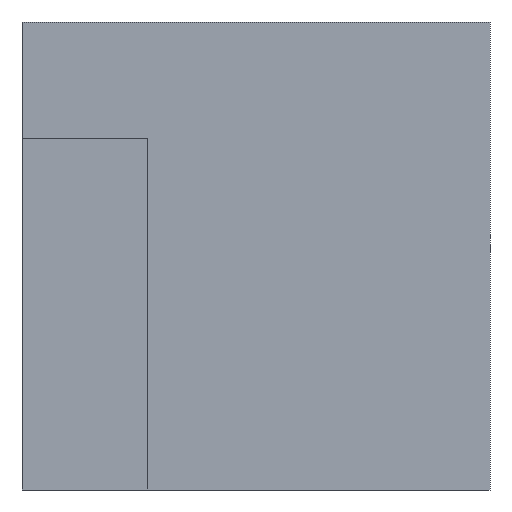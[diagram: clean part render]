
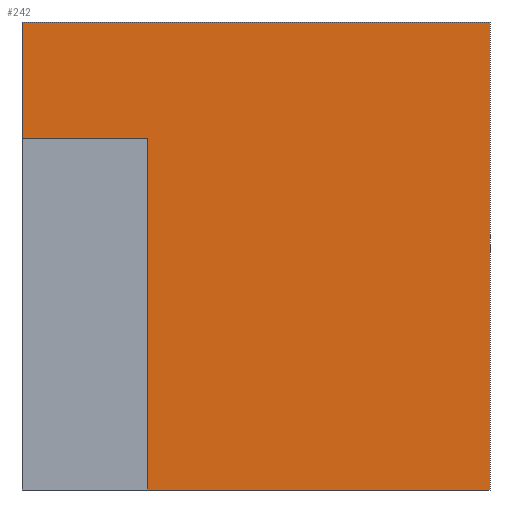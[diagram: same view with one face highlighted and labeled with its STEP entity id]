
A CAD part, front view. The second image highlights one B-rep face of the part: STEP entity #242.
In plain terms, the highlighted planar face has unit normal (0, -1, 0).
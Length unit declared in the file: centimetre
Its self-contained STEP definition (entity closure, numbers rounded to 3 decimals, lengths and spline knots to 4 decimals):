
#5 = CARTESIAN_POINT ( 'NONE',  ( 0., 0., 0. ) ) ;
#14 = CARTESIAN_POINT ( 'NONE',  ( 0., 0., 1000. ) ) ;
#21 = ORIENTED_EDGE ( 'NONE', *, *, #427, .F. ) ;
#36 = LINE ( 'NONE', #254, #127 ) ;
#67 = LINE ( 'NONE', #189, #208 ) ;
#69 = DIRECTION ( 'NONE',  ( 0., 0., 1. ) ) ;
#71 = DIRECTION ( 'NONE',  ( 1., 0., 0. ) ) ;
#78 = LINE ( 'NONE', #332, #326 ) ;
#104 = PLANE ( 'NONE',  #426 ) ;
#108 = FACE_OUTER_BOUND ( 'NONE', #241, .T. ) ;
#127 = VECTOR ( 'NONE', #371, 100. ) ;
#143 = VERTEX_POINT ( 'NONE', #455 ) ;
#144 = CARTESIAN_POINT ( 'NONE',  ( 0., 0., 1000. ) ) ;
#151 = DIRECTION ( 'NONE',  ( 0., 0., -1. ) ) ;
#155 = ORIENTED_EDGE ( 'NONE', *, *, #379, .F. ) ;
#158 = ORIENTED_EDGE ( 'NONE', *, *, #315, .F. ) ;
#172 = ORIENTED_EDGE ( 'NONE', *, *, #446, .T. ) ;
#189 = CARTESIAN_POINT ( 'NONE',  ( 1000., 0., 1000. ) ) ;
#198 = VERTEX_POINT ( 'NONE', #361 ) ;
#199 = CARTESIAN_POINT ( 'NONE',  ( 1000., 0., 0. ) ) ;
#207 = VERTEX_POINT ( 'NONE', #144 ) ;
#208 = VECTOR ( 'NONE', #151, 100. ) ;
#227 = CARTESIAN_POINT ( 'NONE',  ( 268.6001, 0., 0. ) ) ;
#233 = ORIENTED_EDGE ( 'NONE', *, *, #435, .T. ) ;
#234 = DIRECTION ( 'NONE',  ( -1., 0., 0. ) ) ;
#241 = EDGE_LOOP ( 'NONE', ( #233, #158, #450, #172, #21, #155 ) ) ;
#242 = ADVANCED_FACE ( 'NONE', ( #108 ), #104, .F. ) ;
#244 = VECTOR ( 'NONE', #71, 100. ) ;
#254 = CARTESIAN_POINT ( 'NONE',  ( 0., 0., 1000. ) ) ;
#262 = LINE ( 'NONE', #303, #391 ) ;
#299 = CARTESIAN_POINT ( 'NONE',  ( 1000., 0., 1000. ) ) ;
#303 = CARTESIAN_POINT ( 'NONE',  ( 268.6001, 0., 751.2106 ) ) ;
#315 = EDGE_CURVE ( 'NONE', #143, #198, #262, .T. ) ;
#321 = VERTEX_POINT ( 'NONE', #299 ) ;
#322 = DIRECTION ( 'NONE',  ( 0., 1., 0. ) ) ;
#326 = VECTOR ( 'NONE', #328, 100. ) ;
#328 = DIRECTION ( 'NONE',  ( 0., 0., 1. ) ) ;
#332 = CARTESIAN_POINT ( 'NONE',  ( 268.6001, 0., 0. ) ) ;
#358 = VERTEX_POINT ( 'NONE', #227 ) ;
#361 = CARTESIAN_POINT ( 'NONE',  ( 0., 0., 751.2106 ) ) ;
#371 = DIRECTION ( 'NONE',  ( 0., 0., -1. ) ) ;
#377 = VERTEX_POINT ( 'NONE', #199 ) ;
#379 = EDGE_CURVE ( 'NONE', #207, #321, #415, .T. ) ;
#391 = VECTOR ( 'NONE', #234, 100. ) ;
#395 = CARTESIAN_POINT ( 'NONE',  ( 0., 0., 1000. ) ) ;
#415 = LINE ( 'NONE', #14, #428 ) ;
#426 = AXIS2_PLACEMENT_3D ( 'NONE', #395, #322, #69 ) ;
#427 = EDGE_CURVE ( 'NONE', #321, #377, #67, .T. ) ;
#428 = VECTOR ( 'NONE', #440, 100. ) ;
#431 = EDGE_CURVE ( 'NONE', #358, #143, #78, .T. ) ;
#435 = EDGE_CURVE ( 'NONE', #207, #198, #36, .T. ) ;
#437 = LINE ( 'NONE', #5, #244 ) ;
#440 = DIRECTION ( 'NONE',  ( 1., 0., 0. ) ) ;
#446 = EDGE_CURVE ( 'NONE', #358, #377, #437, .T. ) ;
#450 = ORIENTED_EDGE ( 'NONE', *, *, #431, .F. ) ;
#455 = CARTESIAN_POINT ( 'NONE',  ( 268.6001, 0., 751.2106 ) ) ;
